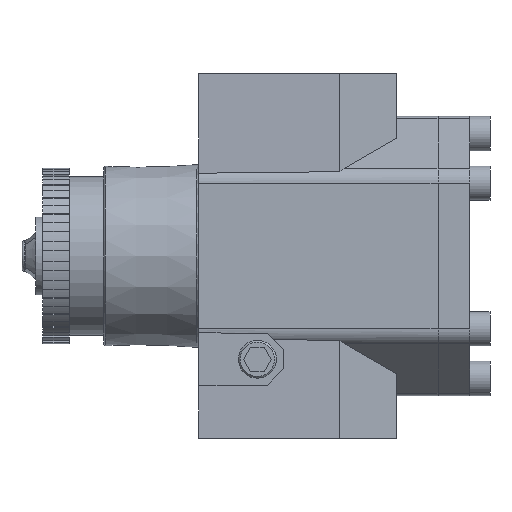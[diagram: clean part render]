
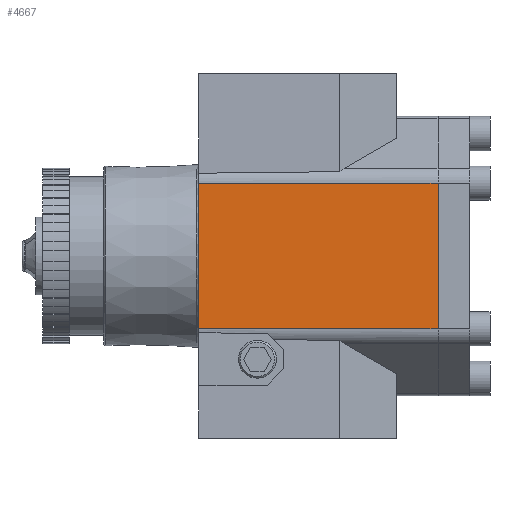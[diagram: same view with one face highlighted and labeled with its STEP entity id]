
A CAD part, left-side view. The second image highlights one B-rep face of the part: STEP entity #4667.
In plain terms, the highlighted planar face has unit normal (-1, 0, 0).
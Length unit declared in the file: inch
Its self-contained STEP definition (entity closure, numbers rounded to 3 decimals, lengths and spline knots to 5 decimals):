
#4036=CARTESIAN_POINT('',(-1.5,1.43497,-1.05716));
#4037=VERTEX_POINT('',#4036);
#4045=CARTESIAN_POINT('',(-1.5,1.43497,1.05716));
#4046=VERTEX_POINT('',#4045);
#4047=CARTESIAN_POINT('',(-1.5,1.43497,1.05716));
#4048=DIRECTION('',(0.0,0.0,-1.0));
#4049=VECTOR('',#4048,2.11432);
#4050=LINE('',#4047,#4049);
#4051=EDGE_CURVE('',#4046,#4037,#4050,.T.);
#4637=CARTESIAN_POINT('',(-1.5,1.43497,-1.2015));
#4638=DIRECTION('',(-1.0,0.0,0.0));
#4639=DIRECTION('',(0.0,0.0,1.0));
#4640=AXIS2_PLACEMENT_3D('',#4637,#4638,#4639);
#4641=PLANE('',#4640);
#4642=CARTESIAN_POINT('',(-1.5,-2.03953,1.05716));
#4643=VERTEX_POINT('',#4642);
#4644=CARTESIAN_POINT('',(-1.5,1.43497,1.05716));
#4645=DIRECTION('',(0.0,-1.0,0.0));
#4646=VECTOR('',#4645,3.4745);
#4647=LINE('',#4644,#4646);
#4648=EDGE_CURVE('',#4046,#4643,#4647,.T.);
#4649=ORIENTED_EDGE('',*,*,#4648,.F.);
#4650=ORIENTED_EDGE('',*,*,#4051,.T.);
#4651=CARTESIAN_POINT('',(-1.5,-2.03953,-1.05716));
#4652=VERTEX_POINT('',#4651);
#4653=CARTESIAN_POINT('',(-1.5,-2.03953,-1.05716));
#4654=DIRECTION('',(0.0,1.0,0.0));
#4655=VECTOR('',#4654,3.4745);
#4656=LINE('',#4653,#4655);
#4657=EDGE_CURVE('',#4652,#4037,#4656,.T.);
#4658=ORIENTED_EDGE('',*,*,#4657,.F.);
#4659=CARTESIAN_POINT('',(-1.5,-2.03953,-1.05716));
#4660=DIRECTION('',(0.0,0.0,1.0));
#4661=VECTOR('',#4660,2.11432);
#4662=LINE('',#4659,#4661);
#4663=EDGE_CURVE('',#4652,#4643,#4662,.T.);
#4664=ORIENTED_EDGE('',*,*,#4663,.T.);
#4665=EDGE_LOOP('',(#4649,#4650,#4658,#4664));
#4666=FACE_OUTER_BOUND('',#4665,.T.);
#4667=ADVANCED_FACE('',(#4666),#4641,.T.);
